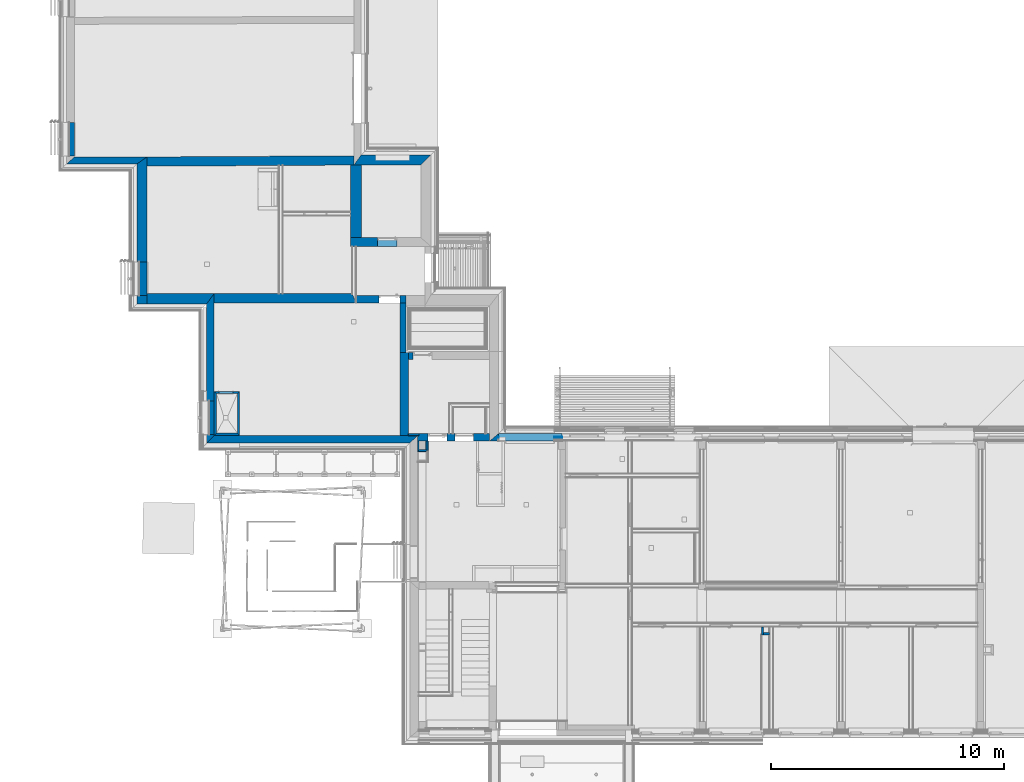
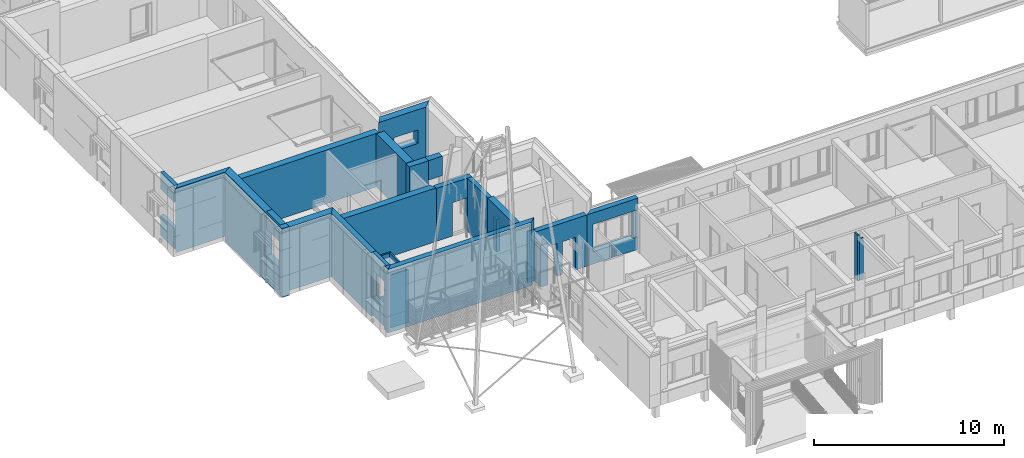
# One storey, part 23 of 418: 31 walls, 14 openings.
"""IFC2X3 building model written with IfcOpenShell, lengths in millimetres."""

from ifc_helpers import new_model, entity, si_unit, converted_unit, derived_unit, money_unit, direction, frame, origin_with_axes, origin_2d_with_axis, place, context, subcontext, project, spatial, polyline, rectangle, outline, extrude, material, layer, layer_set, layer_usage, type_object, element, save


model = new_model("IFC2X3")

# Units and contexts
model_context = context("Model", 3, precision=0.01, world=origin_with_axes(), true_north=direction((0.0, 1.0)))
body_context = subcontext(model_context, "Body", "Model", "MODEL_VIEW")
ifc_project = project(units=[si_unit("LENGTHUNIT", "METRE", prefix="MILLI"), si_unit("AREAUNIT", "SQUARE_METRE"), si_unit("VOLUMEUNIT", "CUBIC_METRE"), converted_unit("PLANEANGLEUNIT", "DEGREE", entity("IfcPlaneAngleMeasure", 0.0174532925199), si_unit("PLANEANGLEUNIT", "RADIAN"), dimensions=[0, 0, 0, 0, 0, 0, 0]), si_unit("SOLIDANGLEUNIT", "STERADIAN"), money_unit("EUR"), converted_unit("TIMEUNIT", "Year", entity("IfcTimeMeasure", 31556926.0), si_unit("TIMEUNIT", "SECOND"), dimensions=[0, 0, 1, 0, 0, 0, 0]), si_unit("MASSUNIT", "GRAM", prefix="KILO"), si_unit("THERMODYNAMICTEMPERATUREUNIT", "DEGREE_CELSIUS"), si_unit("LUMINOUSINTENSITYUNIT", "LUMEN"), si_unit("ENERGYUNIT", "JOULE", prefix="MEGA"), derived_unit("THERMALCONDUCTANCEUNIT", [(si_unit("POWERUNIT", "WATT"), 1), (si_unit("LENGTHUNIT", "METRE"), -1), (si_unit("THERMODYNAMICTEMPERATUREUNIT", "KELVIN"), -1)]), derived_unit("SPECIFICHEATCAPACITYUNIT", [(si_unit("ENERGYUNIT", "JOULE"), 1), (si_unit("MASSUNIT", "GRAM", prefix="KILO"), -1), (si_unit("THERMODYNAMICTEMPERATUREUNIT", "KELVIN"), -1)]), derived_unit("MASSDENSITYUNIT", [(si_unit("MASSUNIT", "GRAM", prefix="KILO"), 1), (si_unit("VOLUMEUNIT", "CUBIC_METRE"), -1)])], contexts=[model_context])

# Site, building, storey
site_placement = place(None, origin_with_axes())
site = spatial("IfcSite", under=ifc_project, at=site_placement, Name="Paldiski mnt 245/1, Tallinn, Harjumaa", CompositionType="COMPLEX")
building_placement = place(site_placement, origin_with_axes())
building = spatial("IfcBuilding", under=site, at=building_placement, Name="RKAS Hoone üldnimetus (kasutust iseloomustav) -> IFC Project Manager -> SOLIBRI", CompositionType="ELEMENT")
storey_placement = place(building_placement, origin_with_axes())
storey = spatial("IfcBuildingStorey", under=building, at=storey_placement, Name="Esimene korrus", CompositionType="ELEMENT", Elevation=0.0)

# Walls
ifc_material_1 = material(Name="KON-00_GENEERILINE - KONSTRUKTSIOON")
ifc_layer_1 = layer(ifc_material_1, 60.0, ventilated="UNKNOWN")
ifc_layer_set_1 = layer_set([ifc_layer_1], Name="KON-00_GENEERILINE - KONSTRUKTSIOON 60")
ifc_layer_usage_1 = layer_usage(ifc_layer_set_1, "AXIS2", "POSITIVE", 0.0)
wall_type_1 = type_object("IfcWallType", Name="KON-00_GENEERILINE - KONSTRUKTSIOON 60", PredefinedType="NOTDEFINED")
wall_1_placement = place(storey_placement, frame((-47590.0, -469.999999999, 0.0), z_axis=(0.0, 0.0, 1.0), x_axis=(0.0, 1.0, 0.0)))
element("IfcWallStandardCase", 1, at=wall_1_placement, inside=storey, type_object=wall_type_1, material=ifc_layer_usage_1, Name="Sisesein", context=body_context, shape_type="SweptSolid", body=[
    extrude(outline(polyline([(0.0, 0.0), (360.0, 0.0), (360.0, 60.0), (-95.0, 60.0), (0.0, 0.0)])), origin_with_axes(), (0.0, 0.0, 1.0), 2670.0),
])
ifc_layer_2 = layer(ifc_material_1, 95.0, ventilated="UNKNOWN")
ifc_layer_set_2 = layer_set([ifc_layer_2], Name="KON-00_GENEERILINE - KONSTRUKTSIOON 95")
ifc_layer_usage_2 = layer_usage(ifc_layer_set_2, "AXIS2", "POSITIVE", 0.0)
wall_type_2 = type_object("IfcWallType", Name="KON-00_GENEERILINE - KONSTRUKTSIOON 95", PredefinedType="NOTDEFINED")
wall_2_placement = place(storey_placement, frame((-47289.9998963, -469.999999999, 0.0), z_axis=(0.0, 0.0, 1.0), x_axis=(-1.0, 0.0, 0.0)))
element("IfcWallStandardCase", 2, at=wall_2_placement, inside=storey, type_object=wall_type_2, material=ifc_layer_usage_2, Name="Sisesein", context=body_context, shape_type="SweptSolid", body=[
    extrude(outline(polyline([(0.0, 0.0), (300.000103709, 0.0), (360.000103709, 95.0), (-95.0000273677, 95.0), (0.0, 0.0)])), origin_with_axes(), (0.0, 0.0, 1.0), 2670.0),
])
ifc_layer_usage_3 = layer_usage(ifc_layer_set_2, "AXIS2", "POSITIVE", 0.0)
wall_3_placement = place(storey_placement, frame((-47290.0, -109.999999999, 0.0), z_axis=(0.0, 0.0, 1.0), x_axis=(2.88081025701e-07, -1.0, 0.0)))
element("IfcWallStandardCase", 3, at=wall_3_placement, inside=storey, type_object=wall_type_2, material=ifc_layer_usage_3, Name="Sisesein", context=body_context, shape_type="SweptSolid", body=[
    extrude(outline(polyline([(0.0, 0.0), (360.0, 0.0), (455.000027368, 95.0), (0.0, 95.0), (0.0, 0.0)])), origin_with_axes(), (0.0, 0.0, 1.0), 2670.0),
])

# Wall, opening
ifc_material_2 = material(Name="Olemasolev silikaltsiitpaneel")
ifc_layer_3 = layer(ifc_material_2, 320.0, ventilated="UNKNOWN")
ifc_layer_set_3 = layer_set([ifc_layer_3], Name="VS-02_olol")
ifc_layer_usage_4 = layer_usage(ifc_layer_set_3, "AXIS2", "POSITIVE", 0.0)
wall_type_3 = type_object("IfcWallType", Name="VS-02_olol 320", PredefinedType="NOTDEFINED")
wall_4_placement = place(storey_placement, frame((-44560.5504586, -109.999999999, 0.0), z_axis=(0.0, 0.0, 1.0), x_axis=(1.0, 0.0, 0.0)))
wall_4 = element("IfcWallStandardCase", 4, at=wall_4_placement, inside=storey, type_object=wall_type_3, material=ifc_layer_usage_4, Name="VS-03", context=body_context, shape_type="SweptSolid", body=[
    extrude(outline(polyline([(0.0, 0.0), (3120.55045863, 0.0), (3120.55045863, 320.0), (380.0, 320.0), (0.0, 0.0)])), origin_with_axes(), (0.0, 0.0, 1.0), 3300.0),
])
opening_1_placement = place(wall_4_placement, frame((44560.5504586, 109.999999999, 0.0), z_axis=(0.0, 0.0, 1.0), x_axis=(1.0, 0.0, 0.0)))
element("IfcOpeningElement", 5, at=opening_1_placement, cuts=wall_4, Name="AVA", ObjectType="OPENING", context=body_context, shape_type="SweptSolid", body=[
    extrude(rectangle(XDim=2740.5504267, YDim=1750.0, at=origin_2d_with_axis()), frame((-42810.2752243, -429.999999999, 1685.0), z_axis=(0.0, -1.0, 0.0), x_axis=(1.0, 0.0, 0.0)), (0.0, 0.0, -1.0), 960.0),
])

ifc_material_3 = material(Name="Olemasolev silikaltsiitplokk")
ifc_layer_4 = layer(ifc_material_3, 440.0, ventilated="UNKNOWN")
ifc_layer_set_4 = layer_set([ifc_layer_4], Name="Olemasolev silikaltsiitplokk 440")
ifc_layer_usage_5 = layer_usage(ifc_layer_set_4, "AXIS2", "NEGATIVE", 0.0)
wall_type_4 = type_object("IfcWallType", Name="Olemasolev silikaltsiitplokk 440", PredefinedType="NOTDEFINED")
wall_5_placement = place(storey_placement, frame((-59270.0, 12099.8287244, -301.569999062), z_axis=(0.0, 0.0, 1.0), x_axis=(0.0, -1.0, 0.0)))
wall_5 = element("IfcWallStandardCase", 6, at=wall_5_placement, inside=storey, type_object=wall_type_4, material=ifc_layer_usage_5, Name="VS-03", context=body_context, shape_type="SweptSolid", body=[
    extrude(outline(polyline([(300.0, -440.0), (6309.20257673, -440.0), (6309.20257673, 0.0), (0.0, 0.0), (300.0, -440.0)])), origin_with_axes(), (0.0, 0.0, 1.0), 4441.56999906),
])
opening_2_placement = place(wall_5_placement, frame((12099.8287244, 59270.0, 301.569999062), z_axis=(0.0, 0.0, 1.0), x_axis=(0.0, 1.0, 0.0)))
element("IfcOpeningElement", 7, at=opening_2_placement, cuts=wall_5, Name="VS-03", ObjectType="OPENING", context=body_context, shape_type="SweptSolid", body=[
    extrude(rectangle(XDim=1450.0, YDim=4110.0001049, at=origin_2d_with_axis()), frame((-59270.0, 6865.01138104, 2055.00005245), z_axis=(-1.0, 0.0, 0.0), x_axis=(0.0, -1.0, 0.0)), (0.0, 0.0, 1.0), 880.0),
])

ifc_layer_usage_6 = layer_usage(ifc_layer_set_4, "AXIS2", "POSITIVE", 0.0)
wall_6_placement = place(storey_placement, frame((-50390.0, 11749.8287244, 0.0), z_axis=(0.0, 0.0, 1.0), x_axis=(1.0, 0.0, 0.0)))
wall_6 = element("IfcWallStandardCase", 8, at=wall_6_placement, inside=storey, type_object=wall_type_4, material=ifc_layer_usage_6, Name="VS-03", context=body_context, shape_type="SweptSolid", body=[
    extrude(outline(polyline([(0.0, 0.0), (2880.0, 0.0), (3320.0, 440.0), (320.0, 440.0), (0.0, 0.0)])), origin_with_axes(), (0.0, 0.0, 1.0), 4090.0),
])
opening_3_placement = place(wall_6_placement, frame((1662.74884085, 0.0, 1920.0), z_axis=(0.0, 0.0, 1.0), x_axis=(1.0, 0.0, 0.0)))
element("IfcOpeningElement", 9, at=opening_3_placement, cuts=wall_6, Name="AVA", context=body_context, shape_type="SweptSolid", body=[
    extrude(rectangle(XDim=1450.0, YDim=870.0, at=origin_2d_with_axis()), frame((0.0, 360.0, 435.0), z_axis=(0.0, -1.0, 0.0), x_axis=(1.0, 0.0, 0.0)), (0.0, 0.0, -1.0), 520.0),
    extrude(rectangle(XDim=1450.0, YDim=870.0, at=origin_2d_with_axis()), frame((0.0, 360.0, 435.0), z_axis=(0.0, 1.0, 0.0), x_axis=(1.0, 0.0, 0.0)), (0.0, 0.0, -1.0), 520.0),
])

# Walls
ifc_layer_usage_7 = layer_usage(ifc_layer_set_4, "AXIS2", "POSITIVE", 0.0)
wall_7_placement = place(storey_placement, frame((-56390.0, 6230.0, 0.0), z_axis=(0.0, 0.0, 1.0), x_axis=(-1.0, 0.0, 0.0)))
element("IfcWallStandardCase", 10, at=wall_7_placement, inside=storey, type_object=wall_type_4, material=ifc_layer_usage_7, Name="VS-03", context=body_context, shape_type="SweptSolid", body=[
    extrude(outline(polyline([(0.0, 0.0), (2880.0, 0.0), (2880.0, 440.0), (320.0, 440.0), (0.0, 0.0)])), origin_with_axes(), (0.0, 0.0, 1.0), 4090.0),
])
ifc_material_4 = material(Name="BAUROC CLASSIC 3 MPa kergplokk")
ifc_layer_5 = layer(ifc_material_4, 300.0, ventilated="UNKNOWN")
ifc_layer_set_5 = layer_set([ifc_layer_5], Name="BAUROC CLASSIC 3 MPa kergplokk 300")
ifc_layer_usage_8 = layer_usage(ifc_layer_set_5, "AXIS2", "POSITIVE", 0.0)
wall_type_5 = type_object("IfcWallType", Name="BAUROC CLASSIC 3 MPa kergplokk 300", PredefinedType="NOTDEFINED")
wall_8_placement = place(storey_placement, frame((-48037.4862663, 3398.95396428, 0.0), z_axis=(0.0, 0.0, 1.0), x_axis=(1.0, 0.0, 0.0)))
element("IfcWallStandardCase", 11, at=wall_8_placement, inside=storey, type_object=wall_type_5, material=ifc_layer_usage_8, Name="SS", context=body_context, shape_type="SweptSolid", body=[
    extrude(outline(polyline([(0.0, 0.0), (197.486266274, 0.0), (197.486266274, 300.0), (0.0, 300.0), (0.0, 0.0)])), origin_with_axes(), (0.0, 0.0, 1.0), 2100.0),
])
ifc_layer_6 = layer(ifc_material_3, 80.0, ventilated="UNKNOWN")
ifc_layer_set_6 = layer_set([ifc_layer_6], Name="Olemasolev silikaltsiitplokk 80")
ifc_layer_usage_9 = layer_usage(ifc_layer_set_6, "AXIS2", "POSITIVE", 0.0)
wall_type_6 = type_object("IfcWallType", Name="Olemasolev silikaltsiitplokk 80", PredefinedType="NOTDEFINED")
wall_9_placement = place(storey_placement, frame((-47590.0, 210.000000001, 0.0), z_axis=(0.0, 0.0, 1.0), x_axis=(-1.0, 0.0, 0.0)))
element("IfcWallStandardCase", 12, at=wall_9_placement, inside=storey, type_object=wall_type_6, material=ifc_layer_usage_9, Name="Sissein", context=body_context, shape_type="SweptSolid", body=[
    extrude(outline(polyline([(0.0, 0.0), (450.0, 0.0), (450.0, 80.0), (0.0, 80.0), (0.0, 0.0)])), origin_with_axes(), (0.0, 0.0, 1.0), 3308.99991095),
])

# Wall, opening
ifc_layer_7 = layer(ifc_material_3, 380.0, ventilated="UNKNOWN")
ifc_layer_set_7 = layer_set([ifc_layer_7], Name="Olemasolev silikaltsiitplokk 380")
ifc_layer_usage_10 = layer_usage(ifc_layer_set_7, "AXIS2", "NEGATIVE", 0.0)
wall_type_7 = type_object("IfcWallType", Name="Olemasolev silikaltsiitplokk 380", PredefinedType="NOTDEFINED")
wall_10_placement = place(storey_placement, frame((-48524.9975905, 8250.0, 0.0), z_axis=(0.0, 0.0, 1.0), x_axis=(-1.0, 0.0, 0.0)))
wall_10 = element("IfcWallStandardCase", 13, at=wall_10_placement, inside=storey, type_object=wall_type_7, material=ifc_layer_usage_10, Name="SS-02", context=body_context, shape_type="SweptSolid", body=[
    extrude(outline(polyline([(0.0, -380.0), (849.999991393, -380.0), (849.999991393, 0.0), (0.0, 0.0), (0.0, -380.0)])), origin_with_axes(), (0.0, 0.0, 1.0), 3411.80696097),
])
opening_4_placement = place(wall_10_placement, frame((424.999991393, 0.0, 0.0), z_axis=(0.0, 0.0, 1.0), x_axis=(1.0, 0.0, 0.0)))
element("IfcOpeningElement", 14, at=opening_4_placement, cuts=wall_10, Name="TSU-05p", context=body_context, shape_type="SweptSolid", body=[
    extrude(rectangle(XDim=850.0, YDim=2150.0, at=origin_2d_with_axis()), frame((0.0, 380.0, 1075.0), z_axis=(0.0, 1.0, 0.0), x_axis=(1.0, 0.0, 0.0)), (0.0, 0.0, -1.0), 1140.0),
])

# Walls
ifc_layer_usage_11 = layer_usage(ifc_layer_set_7, "AXIS2", "NEGATIVE", 0.0)
wall_11_placement = place(storey_placement, frame((-49374.9975819, 8250.0, 0.0), z_axis=(0.0, 0.0, 1.0), x_axis=(-1.0, 0.0, 0.0)))
element("IfcWallStandardCase", 15, at=wall_11_placement, inside=storey, type_object=wall_type_7, material=ifc_layer_usage_11, Name="SS-02", context=body_context, shape_type="SweptSolid", body=[
    extrude(outline(polyline([(0.0, -380.0), (1165.00000465, -380.0), (1165.00000465, 0.0), (0.0, 0.0), (0.0, -380.0)])), origin_with_axes(), (0.0, 0.0, 1.0), 3411.80696097),
])
ifc_material_5 = material(Name="BAUROC Acoustic")
ifc_layer_8 = layer(ifc_material_5, 100.0, ventilated="UNKNOWN")
ifc_layer_set_8 = layer_set([ifc_layer_8], Name="SS-11")
ifc_layer_usage_12 = layer_usage(ifc_layer_set_8, "AXIS2", "POSITIVE", -100.0)
wall_type_8 = type_object("IfcWallType", Name="SS-11 100", PredefinedType="NOTDEFINED")
wall_12_placement = place(storey_placement, frame((-32785.0, -8335.0, 0.0), z_axis=(0.0, 0.0, 1.0), x_axis=(1.0, 0.0, 0.0)))
element("IfcWallStandardCase", 16, at=wall_12_placement, inside=storey, type_object=wall_type_8, material=ifc_layer_usage_12, Name="SS-11", context=body_context, shape_type="SweptSolid", body=[
    extrude(outline(polyline([(0.0, -100.0), (250.0, -100.0), (250.0, 0.0), (0.0, 0.0), (0.0, -100.0)])), origin_with_axes(), (0.0, 0.0, 1.0), 2675.0),
])
ifc_layer_usage_13 = layer_usage(ifc_layer_set_8, "AXIS2", "POSITIVE", -100.0)
wall_13_placement = place(storey_placement, frame((-32785.0, -8085.0, 0.0), z_axis=(0.0, 0.0, 1.0), x_axis=(0.0, -1.0, 0.0)))
element("IfcWallStandardCase", 17, at=wall_13_placement, inside=storey, type_object=wall_type_8, material=ifc_layer_usage_13, Name="SS-11", context=body_context, shape_type="SweptSolid", body=[
    extrude(outline(polyline([(0.0, -100.0), (350.0, -100.0), (350.0, 0.0), (0.0, 0.0), (0.0, -100.0)])), origin_with_axes(), (0.0, 0.0, 1.0), 2950.0),
])

# Wall, opening
ifc_layer_9 = layer(ifc_material_3, 340.0, ventilated="UNKNOWN")
ifc_layer_set_9 = layer_set([ifc_layer_9], Name="Olemasolev silikaltsiitplokk 340")
ifc_layer_usage_14 = layer_usage(ifc_layer_set_9, "AXIS2", "NEGATIVE", 0.0)
wall_type_9 = type_object("IfcWallType", Name="Olemasolev silikaltsiitplokk 340", PredefinedType="NOTDEFINED")
wall_14_placement = place(storey_placement, frame((-59270.0, 7590.01138104, 30.0), z_axis=(0.0, 0.0, 1.0), x_axis=(0.0, -1.0, 0.0)))
wall_14 = element("IfcWallStandardCase", 18, at=wall_14_placement, inside=storey, type_object=wall_type_9, material=ifc_layer_usage_14, Name="VS-05", context=body_context, shape_type="SweptSolid", body=[
    extrude(outline(polyline([(0.0, -340.0), (1450.0, -340.0), (1450.0, 0.0), (0.0, 0.0), (0.0, -340.0)])), origin_with_axes(), (0.0, 0.0, 1.0), 4110.0),
])
opening_5_placement = place(wall_14_placement, frame((724.999997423, 0.0, 1260.0), z_axis=(0.0, 0.0, 1.0), x_axis=(1.0, 0.0, 0.0)))
element("IfcOpeningElement", 19, at=opening_5_placement, cuts=wall_14, Name="AVA", context=body_context, shape_type="SweptSolid", body=[
    extrude(rectangle(XDim=1450.0, YDim=1700.0, at=origin_2d_with_axis()), frame((0.0, -240.0, 850.0), z_axis=(0.0, 1.0, 0.0), x_axis=(1.0, 0.0, 0.0)), (0.0, 0.0, -1.0), 440.0),
    extrude(rectangle(XDim=1450.0, YDim=1700.0, at=origin_2d_with_axis()), frame((0.0, -240.0, 850.0), z_axis=(0.0, -1.0, 0.0), x_axis=(1.0, 0.0, 0.0)), (0.0, 0.0, -1.0), 440.0),
])

ifc_material_6 = material(Name="SP2B E-PIR")
ifc_layer_10 = layer(ifc_material_6, 220.0, ventilated="UNKNOWN")
ifc_layer_set_10 = layer_set([ifc_layer_10], Name="SP2B E-PIR 220")
ifc_layer_usage_15 = layer_usage(ifc_layer_set_10, "AXIS2", "NEGATIVE", 0.0)
wall_type_10 = type_object("IfcWallType", Name="SP2B E-PIR 220", PredefinedType="NOTDEFINED")
wall_15_placement = place(storey_placement, frame((-56389.9999767, 1619.99992126, 30.0), z_axis=(0.0, 0.0, 1.0), x_axis=(0.0, -1.0, 0.0)))
wall_15 = element("IfcWallStandardCase", 20, at=wall_15_placement, inside=storey, type_object=wall_type_10, material=ifc_layer_usage_15, Name="SEIN", context=body_context, shape_type="SweptSolid", body=[
    extrude(outline(polyline([(0.0, -220.0), (1450.0, -220.0), (1450.0, 0.0), (0.0, 0.0), (0.0, -220.0)])), origin_with_axes(), (0.0, 0.0, 1.0), 4060.0),
])
opening_6_placement = place(wall_15_placement, frame((719.999960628, 0.0, 1210.0), z_axis=(0.0, 0.0, 1.0), x_axis=(1.0, 0.0, 0.0)))
element("IfcOpeningElement", 21, at=opening_6_placement, cuts=wall_15, Name="AVA", context=body_context, shape_type="SweptSolid", body=[
    extrude(rectangle(XDim=1339.99992126, YDim=1700.0, at=origin_2d_with_axis()), frame((0.0, -120.0, 850.0), z_axis=(0.0, 1.0, 0.0), x_axis=(1.0, 0.0, 0.0)), (0.0, 0.0, -1.0), 320.0),
    extrude(rectangle(XDim=1339.99992126, YDim=1700.0, at=origin_2d_with_axis()), frame((0.0, -120.0, 850.0), z_axis=(0.0, -1.0, 0.0), x_axis=(1.0, 0.0, 0.0)), (0.0, 0.0, -1.0), 320.0),
])

# Walls
ifc_layer_11 = layer(ifc_material_3, 480.0, ventilated="UNKNOWN")
ifc_layer_set_11 = layer_set([ifc_layer_11], Name="Olemasolev silikaltsiitplokk 480")
ifc_layer_usage_16 = layer_usage(ifc_layer_set_11, "AXIS2", "POSITIVE", 0.0)
wall_type_11 = type_object("IfcWallType", Name="Olemasolev silikaltsiitplokk 480", PredefinedType="NOTDEFINED")
wall_16_placement = place(storey_placement, frame((-50059.9975866, 8250.0, 0.0), z_axis=(0.0, 0.0, 1.0), x_axis=(0.0, 1.0, 0.0)))
element("IfcWallStandardCase", 22, at=wall_16_placement, inside=storey, type_object=wall_type_11, material=ifc_layer_usage_16, Name="SS-03", context=body_context, shape_type="SweptSolid", body=[
    extrude(outline(polyline([(380.0, 0.0), (3499.82872435, 0.0), (3499.82872435, 480.0), (380.0, 480.0), (380.0, 0.0)])), origin_with_axes(), (0.0, 0.0, 1.0), 3434.52456088),
])
ifc_material_7 = material(Name="Olemasolev silikaattellis")
ifc_layer_12 = layer(ifc_material_7, 260.0, ventilated="UNKNOWN")
ifc_layer_set_12 = layer_set([ifc_layer_12], Name="Olemasolev silikaattellis 260")
ifc_layer_usage_17 = layer_usage(ifc_layer_set_12, "AXIS2", "NEGATIVE", 0.0)
wall_type_12 = type_object("IfcWallType", Name="Olemasolev silikaattellis 260", PredefinedType="NOTDEFINED")
wall_17_placement = place(storey_placement, frame((-48140.0, 6150.0, 0.0), z_axis=(0.0, 0.0, 1.0), x_axis=(0.0, -1.0, 0.0)))
element("IfcWallStandardCase", 23, at=wall_17_placement, inside=storey, type_object=wall_type_12, material=ifc_layer_usage_17, Name="SS-12", context=body_context, shape_type="SweptSolid", body=[
    extrude(outline(polyline([(320.0, -260.0), (2450.17127565, -260.0), (2450.17127565, 0.0), (320.0, 0.0), (320.0, -260.0)])), origin_with_axes(), (0.0, 0.0, 1.0), 3420.80687192),
])
ifc_layer_13 = layer(ifc_material_3, 360.0, ventilated="UNKNOWN")
ifc_layer_set_13 = layer_set([ifc_layer_13], Name="Olemasolev silikaltsiitplokk 360")
ifc_layer_usage_18 = layer_usage(ifc_layer_set_13, "AXIS2", "NEGATIVE", 0.0)
wall_type_13 = type_object("IfcWallType", Name="Olemasolev silikaltsiitplokk 360", PredefinedType="NOTDEFINED")
wall_18_placement = place(storey_placement, frame((-48040.0, 3699.82872435, 0.0), z_axis=(0.0, 0.0, 1.0), x_axis=(0.0, -1.0, 0.0)))
element("IfcWallStandardCase", 24, at=wall_18_placement, inside=storey, type_object=wall_type_13, material=ifc_layer_usage_18, Name="SS-02", context=body_context, shape_type="SweptSolid", body=[
    extrude(outline(polyline([(0.0, -360.0), (3569.82872435, -360.0), (3569.82872435, 0.0), (0.0, 0.0), (0.0, -360.0)])), origin_with_axes(), (0.0, 0.0, 1.0), 3428.17622452),
])
ifc_layer_14 = layer(ifc_material_3, 300.0, ventilated="UNKNOWN")
ifc_layer_set_14 = layer_set([ifc_layer_14], Name="Olemasolev silikaltsiitplokk 300")
ifc_layer_usage_19 = layer_usage(ifc_layer_set_14, "AXIS2", "NEGATIVE", 0.0)
wall_type_14 = type_object("IfcWallType", Name="Olemasolev silikaltsiitplokk 300", PredefinedType="NOTDEFINED")
wall_19_placement = place(storey_placement, frame((-62390.0, 12099.8287244, 0.0), z_axis=(0.0, 0.0, 1.0), x_axis=(1.0, 0.0, 0.0)))
element("IfcWallStandardCase", 25, at=wall_19_placement, inside=storey, type_object=wall_type_14, material=ifc_layer_usage_19, Name="VS-03", context=body_context, shape_type="SweptSolid", body=[
    extrude(outline(polyline([(-340.0, -300.0), (2680.0, -300.0), (3120.0, 0.0), (0.0, 0.0), (-340.0, -300.0)])), origin_with_axes(), (0.0, 0.0, 1.0), 4140.0),
])
ifc_layer_15 = layer(ifc_material_3, 400.0, ventilated="UNKNOWN")
ifc_layer_set_15 = layer_set([ifc_layer_15], Name="Olemasolev silikaltsiitplokk 400")
ifc_layer_usage_20 = layer_usage(ifc_layer_set_15, "AXIS2", "POSITIVE", 0.0)
wall_type_15 = type_object("IfcWallType", Name="Olemasolev silikaltsiitplokk 400", PredefinedType="NOTDEFINED")
wall_20_placement = place(storey_placement, frame((-59270.0, 11699.8223836, 0.0), z_axis=(0.0, 0.0, 1.0), x_axis=(0.999984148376, 0.00563054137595, 0.0)))
element("IfcWallStandardCase", 26, at=wall_20_placement, inside=storey, type_object=wall_type_15, material=ifc_layer_usage_20, Name="SS-02", context=body_context, shape_type="SweptSolid", body=[
    extrude(outline(polyline([(0.0, 0.0), (8880.14076465, 0.0), (8882.3930169, 400.0), (2.25225225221, 400.0), (0.0, 0.0)])), origin_with_axes(), (0.0, 0.0, 1.0), 3450.80687192),
])
ifc_layer_usage_21 = layer_usage(ifc_layer_set_15, "AXIS2", "NEGATIVE", 0.0)
wall_21_placement = place(storey_placement, frame((-56390.0, 6230.0, 0.0), z_axis=(0.0, 0.0, 1.0), x_axis=(1.0, 0.0, 0.0)))
element("IfcWallStandardCase", 27, at=wall_21_placement, inside=storey, type_object=wall_type_15, material=ifc_layer_usage_21, Name="SS-02", context=body_context, shape_type="SweptSolid", body=[
    extrude(outline(polyline([(0.0, -400.0), (6100.0, -400.0), (5930.0, 0.0), (0.0, 0.0), (0.0, -400.0)])), origin_with_axes(), (0.0, 0.0, 1.0), 3450.80687192),
])
ifc_layer_16 = layer(ifc_material_6, 100.0, ventilated="UNKNOWN")
ifc_layer_set_16 = layer_set([ifc_layer_16], Name="SS-13")
ifc_layer_usage_22 = layer_usage(ifc_layer_set_16, "AXIS2", "NEGATIVE", 100.0)
wall_type_16 = type_object("IfcWallType", Name="SS-13 100", PredefinedType="NOTDEFINED")
wall_22_placement = place(storey_placement, frame((-55389.9999767, 1929.99992126, 0.0), z_axis=(0.0, 0.0, 1.0), x_axis=(0.0, -1.0, 0.0)))
element("IfcWallStandardCase", 28, at=wall_22_placement, inside=storey, type_object=wall_type_16, material=ifc_layer_usage_22, Name="SS-13", context=body_context, shape_type="SweptSolid", body=[
    extrude(outline(polyline([(0.0, 0.0), (1699.99992126, 0.0), (1799.99992126, 100.0), (-100.0, 100.0), (0.0, 0.0)])), origin_with_axes(), (0.0, 0.0, 1.0), 3411.80696097),
])

# Wall, opening
ifc_layer_usage_23 = layer_usage(ifc_layer_set_16, "AXIS2", "NEGATIVE", 100.0)
wall_23_placement = place(storey_placement, frame((-56290.0, 1929.99992126, 0.0), z_axis=(0.0, 0.0, 1.0), x_axis=(1.0, 0.0, 0.0)))
wall_23 = element("IfcWallStandardCase", 29, at=wall_23_placement, inside=storey, type_object=wall_type_16, material=ifc_layer_usage_23, Name="SS-13", context=body_context, shape_type="SweptSolid", body=[
    extrude(outline(polyline([(0.0, 0.0), (900.000023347, 0.0), (1000.00002335, 100.0), (-100.0, 100.0), (0.0, 0.0)])), origin_with_axes(), (0.0, 0.0, 1.0), 3411.80696097),
])
opening_7_placement = place(wall_23_placement, frame((400.000023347, 0.0, 723.0), z_axis=(0.0, 0.0, 1.0), x_axis=(1.0, 0.0, 0.0)))
element("IfcOpeningElement", 30, at=opening_7_placement, cuts=wall_23, Name="SU-16v", context=body_context, shape_type="SweptSolid", body=[
    extrude(rectangle(XDim=600.0, YDim=1800.0, at=origin_2d_with_axis()), frame((0.0, -100.0, 900.0), z_axis=(0.0, -1.0, 0.0), x_axis=(-1.0, 0.0, 0.0)), (0.0, 0.0, -1.0), 300.0),
    extrude(rectangle(XDim=674.0, YDim=1837.0, at=origin_2d_with_axis()), frame((0.0, 0.0, 918.5), z_axis=(0.0, -1.0, 0.0), x_axis=(-1.0, 0.0, 0.0)), (0.0, 0.0, 1.0), 100.0),
    extrude(rectangle(XDim=674.0, YDim=1837.0, at=origin_2d_with_axis()), frame((0.0, 100.0, 918.5), z_axis=(0.0, 1.0, 0.0), x_axis=(-1.0, 0.0, 0.0)), (0.0, 0.0, 1.0), 100.0),
])

# Wall
ifc_layer_17 = layer(ifc_material_6, 100.0, ventilated="UNKNOWN")
ifc_layer_set_17 = layer_set([ifc_layer_17], Name="VS-08 sisekiht")
ifc_layer_usage_24 = layer_usage(ifc_layer_set_17, "AXIS2", "NEGATIVE", 100.0)
wall_type_17 = type_object("IfcWallType", Name="VS-08 sisekiht 100", PredefinedType="NOTDEFINED")
wall_24_placement = place(storey_placement, frame((-55389.9999767, 230.000000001, 0.0), z_axis=(0.0, 0.0, 1.0), x_axis=(-1.0, 0.0, 0.0)))
element("IfcWallStandardCase", 31, at=wall_24_placement, inside=storey, type_object=wall_type_17, material=ifc_layer_usage_24, Name="VS-08", context=body_context, shape_type="SweptSolid", body=[
    extrude(outline(polyline([(0.0, 0.0), (900.000023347, 0.0), (1000.00002335, 100.0), (-100.0, 100.0), (0.0, 0.0)])), origin_with_axes(), (0.0, 0.0, 1.0), 3412.0),
])

# Wall, opening
ifc_layer_usage_25 = layer_usage(ifc_layer_set_17, "AXIS2", "NEGATIVE", 100.0)
wall_25_placement = place(storey_placement, frame((-56290.0, 230.000000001, 0.0), z_axis=(0.0, 0.0, 1.0), x_axis=(0.0, 1.0, 0.0)))
wall_25 = element("IfcWallStandardCase", 32, at=wall_25_placement, inside=storey, type_object=wall_type_17, material=ifc_layer_usage_25, Name="VS-08.1", context=body_context, shape_type="SweptSolid", body=[
    extrude(outline(polyline([(0.0, 0.0), (1699.99992126, 0.0), (1799.99992126, 100.0), (-100.0, 100.0), (0.0, 0.0)])), origin_with_axes(), (0.0, 0.0, 1.0), 3141.80696097),
])
opening_8_placement = place(wall_25_placement, frame((669.999960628, 0.0, 1240.0), z_axis=(0.0, 0.0, 1.0), x_axis=(1.0, 0.0, 0.0)))
element("IfcOpeningElement", 33, at=opening_8_placement, cuts=wall_25, Name="Ava", context=body_context, shape_type="SweptSolid", body=[
    extrude(rectangle(XDim=1339.99992126, YDim=1700.0, at=origin_2d_with_axis()), frame((0.0, -200.0, 850.0), z_axis=(0.0, 1.0, 0.0), x_axis=(1.0, 0.0, 0.0)), (0.0, 0.0, -1.0), 300.0),
    extrude(rectangle(XDim=1339.99992126, YDim=1700.0, at=origin_2d_with_axis()), frame((0.0, -200.0, 850.0), z_axis=(0.0, -1.0, 0.0), x_axis=(1.0, 0.0, 0.0)), (0.0, 0.0, -1.0), 300.0),
])

ifc_layer_18 = layer(ifc_material_3, 115.0, ventilated="UNKNOWN")
ifc_layer_set_18 = layer_set([ifc_layer_18], Name="VS-04_olol")
ifc_layer_usage_26 = layer_usage(ifc_layer_set_18, "AXIS2", "NEGATIVE", 0.0)
wall_type_18 = type_object("IfcWallType", Name="VS-04_olol 115", PredefinedType="NOTDEFINED")
wall_26_placement = place(storey_placement, frame((-41440.0, -44.9999999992, 810.0), z_axis=(0.0, 0.0, 1.0), x_axis=(-1.0, 0.0, 0.0)))
wall_26 = element("IfcWallStandardCase", 34, at=wall_26_placement, inside=storey, type_object=wall_type_18, material=ifc_layer_usage_26, Name="VS-04", context=body_context, shape_type="SweptSolid", body=[
    extrude(outline(polyline([(0.0, -115.0), (2740.55032631, -115.0), (2740.55032631, 0.0), (0.0, 0.0), (0.0, -115.0)])), origin_with_axes(), (0.0, 0.0, 1.0), 1750.0),
])
opening_9_placement = place(wall_26_placement, frame((1530.55032631, 0.0, 0.0), z_axis=(0.0, 0.0, 1.0), x_axis=(1.0, 0.0, 0.0)))
element("IfcOpeningElement", 35, at=opening_9_placement, cuts=wall_26, Name="AVA", context=body_context, shape_type="SweptSolid", body=[
    extrude(rectangle(XDim=2400.0, YDim=1750.0, at=origin_2d_with_axis()), frame((0.0, -35.0, 875.0), z_axis=(0.0, 1.0, 0.0), x_axis=(1.0, 0.0, 0.0)), (0.0, 0.0, -1.0), 195.0),
    extrude(rectangle(XDim=2400.0, YDim=1750.0, at=origin_2d_with_axis()), frame((0.0, -35.0, 875.0), z_axis=(0.0, -1.0, 0.0), x_axis=(1.0, 0.0, 0.0)), (0.0, 0.0, -1.0), 195.0),
])

ifc_layer_19 = layer(ifc_material_3, 320.0, ventilated="UNKNOWN")
ifc_layer_set_19 = layer_set([ifc_layer_19], Name="Olemasolev silikaltsiitplokk 320")
ifc_layer_usage_27 = layer_usage(ifc_layer_set_19, "AXIS2", "POSITIVE", 0.0)
wall_type_19 = type_object("IfcWallType", Name="Olemasolev silikaltsiitplokk 320", PredefinedType="NOTDEFINED")
wall_27_placement = place(storey_placement, frame((-56390.0, 130.000000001, 0.0), z_axis=(0.0, 0.0, 1.0), x_axis=(0.0, 1.0, 0.0)))
wall_27 = element("IfcWallStandardCase", 36, at=wall_27_placement, inside=storey, type_object=wall_type_19, material=ifc_layer_usage_27, Name="VS-03", context=body_context, shape_type="SweptSolid", body=[
    extrude(outline(polyline([(0.0, 0.0), (6100.0, 0.0), (5660.0, 320.0), (-320.0, 320.0), (0.0, 0.0)])), origin_with_axes(), (0.0, 0.0, 1.0), 4090.0),
])
opening_10_placement = place(wall_27_placement, frame((-130.000000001, -56390.0, 0.0), z_axis=(0.0, 0.0, 1.0), x_axis=(0.0, -1.0, 0.0)))
element("IfcOpeningElement", 37, at=opening_10_placement, cuts=wall_27, Name="AVA", ObjectType="OPENING", context=body_context, shape_type="SweptSolid", body=[
    extrude(rectangle(XDim=1339.99992126, YDim=4110.0, at=origin_2d_with_axis()), frame((-56390.0, 899.99996063, 2035.0), z_axis=(1.0, 0.0, 0.0), x_axis=(0.0, 1.0, 0.0)), (0.0, 0.0, -1.0), 640.0),
])

# Wall, openings
ifc_layer_usage_28 = layer_usage(ifc_layer_set_19, "AXIS2", "NEGATIVE", 0.0)
wall_28_placement = place(storey_placement, frame((-47650.0, 210.000000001, 0.0), z_axis=(0.0, 0.0, 1.0), x_axis=(1.0, 0.0, 0.0)))
wall_28 = element("IfcWallStandardCase", 38, at=wall_28_placement, inside=storey, type_object=wall_type_19, material=ifc_layer_usage_28, Name="SS-02", context=body_context, shape_type="SweptSolid", body=[
    extrude(outline(polyline([(0.0, -320.0), (3089.44954137, -320.0), (3089.44954137, 0.0), (0.0, 0.0), (0.0, -320.0)])), origin_with_axes(), (0.0, 0.0, 1.0), 3300.0),
])
opening_11_placement = place(wall_28_placement, frame((2005.0, 0.0, 0.0), z_axis=(0.0, 0.0, 1.0), x_axis=(1.0, 0.0, 0.0)))
element("IfcOpeningElement", 39, at=opening_11_placement, cuts=wall_28, Name="SU-08v", context=body_context, shape_type="SweptSolid", body=[
    extrude(rectangle(XDim=800.0, YDim=2100.0, at=origin_2d_with_axis()), frame((0.0, -115.0, 1050.0), z_axis=(0.0, 1.0, 0.0), x_axis=(-1.0, 0.0, 0.0)), (0.0, 0.0, -1.0), 525.0),
    extrude(rectangle(XDim=800.0, YDim=2100.0, at=origin_2d_with_axis()), frame((0.0, -115.0, 1050.0), z_axis=(0.0, -1.0, 0.0), x_axis=(-1.0, 0.0, 0.0)), (0.0, 0.0, -1.0), 435.0),
    extrude(rectangle(XDim=914.0, YDim=2157.0, at=origin_2d_with_axis()), frame((0.0, 0.0, 1078.5), z_axis=(0.0, -1.0, 0.0), x_axis=(-1.0, 0.0, 0.0)), (0.0, 0.0, -1.0), 525.0),
])
opening_12_placement = place(wall_28_placement, frame((855.0, 0.0, 0.0), z_axis=(0.0, 0.0, 1.0), x_axis=(1.0, 0.0, 0.0)))
element("IfcOpeningElement", 40, at=opening_12_placement, cuts=wall_28, Name="TSU-03v", context=body_context, shape_type="SweptSolid", body=[
    extrude(rectangle(XDim=800.0, YDim=2100.0, at=origin_2d_with_axis()), frame((0.0, -115.0, 1050.0), z_axis=(0.0, 1.0, 0.0), x_axis=(-1.0, 0.0, 0.0)), (0.0, 0.0, -1.0), 525.0),
    extrude(rectangle(XDim=800.0, YDim=2100.0, at=origin_2d_with_axis()), frame((0.0, -115.0, 1050.0), z_axis=(0.0, -1.0, 0.0), x_axis=(-1.0, 0.0, 0.0)), (0.0, 0.0, -1.0), 435.0),
    extrude(rectangle(XDim=914.0, YDim=2157.0, at=origin_2d_with_axis()), frame((0.0, 0.0, 1078.5), z_axis=(0.0, -1.0, 0.0), x_axis=(-1.0, 0.0, 0.0)), (0.0, 0.0, -1.0), 525.0),
])

# Wall, opening
ifc_layer_usage_29 = layer_usage(ifc_layer_set_19, "AXIS2", "NEGATIVE", 0.0)
wall_29_placement = place(storey_placement, frame((-50290.0, 6150.0, 0.0), z_axis=(0.0, 0.0, 1.0), x_axis=(1.0, 0.0, 0.0)))
wall_29 = element("IfcWallStandardCase", 41, at=wall_29_placement, inside=storey, type_object=wall_type_19, material=ifc_layer_usage_29, Name="SS-02", context=body_context, shape_type="SweptSolid", body=[
    extrude(outline(polyline([(0.0, -320.0), (2150.0, -320.0), (2150.0, 0.0), (0.0, 0.0), (0.0, -320.0)])), origin_with_axes(), (0.0, 0.0, 1.0), 3411.8069953),
])
opening_13_placement = place(wall_29_placement, frame((1440.0, 0.0, 0.0), z_axis=(0.0, 0.0, 1.0), x_axis=(1.0, 0.0, 0.0)))
element("IfcOpeningElement", 42, at=opening_13_placement, cuts=wall_29, Name="TSU-04p", context=body_context, shape_type="SweptSolid", body=[
    extrude(rectangle(XDim=900.0, YDim=2150.0, at=origin_2d_with_axis()), frame((0.0, -320.0, 1075.0), z_axis=(0.0, -1.0, 0.0), x_axis=(-1.0, 0.0, 0.0)), (0.0, 0.0, -1.0), 960.0),
])

# Wall
ifc_layer_usage_30 = layer_usage(ifc_layer_set_19, "AXIS2", "POSITIVE", 0.0)
wall_30_placement = place(storey_placement, frame((-47650.0, 130.000000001, 0.0), z_axis=(0.0, 0.0, 1.0), x_axis=(-1.0, 0.0, 0.0)))
element("IfcWallStandardCase", 43, at=wall_30_placement, inside=storey, type_object=wall_type_19, material=ifc_layer_usage_30, Name="VS-03", context=body_context, shape_type="SweptSolid", body=[
    extrude(outline(polyline([(0.0, 0.0), (8740.0, 0.0), (9060.0, 320.0), (330.0, 320.0), (0.0, 0.0)])), origin_with_axes(), (0.0, 0.0, 1.0), 4090.0),
])

# Wall, opening
ifc_layer_20 = layer(ifc_material_3, 220.0, ventilated="UNKNOWN")
ifc_layer_set_20 = layer_set([ifc_layer_20], Name="Olemasolev silikaltsiitplokk 220")
ifc_layer_usage_31 = layer_usage(ifc_layer_set_20, "AXIS2", "NEGATIVE", 0.0)
wall_type_20 = type_object("IfcWallType", Name="Olemasolev silikaltsiitplokk 220", PredefinedType="NOTDEFINED")
wall_31_placement = place(storey_placement, frame((-62390.0, 13579.8287244, 0.0), z_axis=(0.0, 0.0, 1.0), x_axis=(0.0, -1.0, 0.0)))
wall_31 = element("IfcWallStandardCase", 44, at=wall_31_placement, inside=storey, type_object=wall_type_20, material=ifc_layer_usage_31, Name="VS-05", context=body_context, shape_type="SweptSolid", body=[
    extrude(outline(polyline([(0.0, -220.0), (1450.0, -220.0), (1450.0, 0.0), (0.0, 0.0), (0.0, -220.0)])), origin_with_axes(), (0.0, 0.0, 1.0), 4090.0),
])
opening_14_placement = place(wall_31_placement, frame((724.999997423, 0.0, 1310.0), z_axis=(0.0, 0.0, 1.0), x_axis=(1.0, 0.0, 0.0)))
element("IfcOpeningElement", 45, at=opening_14_placement, cuts=wall_31, Name="AVA", context=body_context, shape_type="SweptSolid", body=[
    extrude(rectangle(XDim=1450.0, YDim=1700.0, at=origin_2d_with_axis()), frame((0.0, -120.0, 850.0), z_axis=(0.0, 1.0, 0.0), x_axis=(1.0, 0.0, 0.0)), (0.0, 0.0, -1.0), 320.0),
    extrude(rectangle(XDim=1450.0, YDim=1700.0, at=origin_2d_with_axis()), frame((0.0, -120.0, 850.0), z_axis=(0.0, -1.0, 0.0), x_axis=(1.0, 0.0, 0.0)), (0.0, 0.0, -1.0), 320.0),
])

save(model, "model.ifc")
